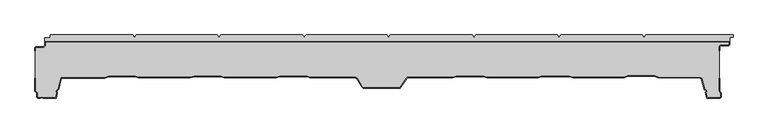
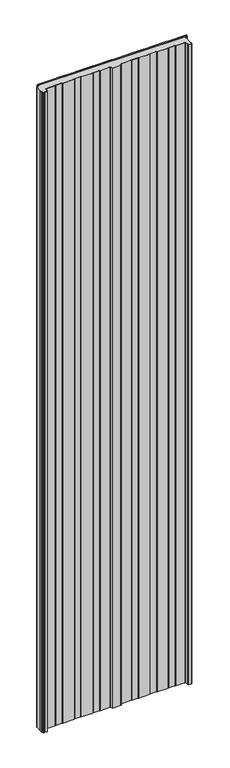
"""IFC4 building model written with IfcOpenShell, lengths in millimetres: plate geometry, Paneles-Sándwich-Madera_PAPUR-AC_Curtain-Panel : PAPUR AC 60/10."""

from ifc_helpers import new_model, si_unit, origin, origin_with_axes, place, context, project, spatial, polyline, outline, extrude, source, transform, mapped, element, save


def plate_5461fc3c(model_context):
    return source(origin(), model_context, "Body", "SweptSolid", [
        extrude(outline(polyline([(-404.8923076, 8.0070037), (-402.9037044, 10.0073737), (-272.8159298, 10.0073737), (-270.8198896, 8.0070037), (-270.8198896, 6.0196231), (-268.8151898, 6.0196231), (-268.8151898, 8.0070037), (-266.8234794, 10.0073737), (-136.0114048, 10.0073737), (-134.028354, 8.0070037), (-134.028354, 6.0196231), (-132.0236542, 6.0196231), (-132.0236542, 8.0070037), (-130.027614, 10.0073737), (-0.6790135, 10.0073737), (1.3083671, 8.0070037), (1.3083671, 6.0196231), (3.3044073, 6.0196231), (3.3044073, 8.0070037), (5.3047773, 10.0073737), (136.7230247, 10.0073737), (138.7147351, 8.0070037), (138.7147351, 6.0196231), (140.7107753, 6.0196231), (140.7107753, 8.0070037), (142.7111453, 10.0073737), (272.9386962, 10.0073737), (274.9390662, 8.0070037), (274.9390662, 6.0196231), (276.9351064, 6.0196231), (276.9351064, 8.0070037), (278.9311466, 10.0073737), (409.5094118, 10.0073737), (411.5097818, 8.0070037), (411.5097818, 6.0196231), (413.4971624, 6.0196231), (413.4971624, 8.0070037), (415.4932026, 10.0073737), (555.7269333, 10.0073737), (555.7269333, 6.4959017), (550.4015009, 6.4959017), (550.4015009, 0.0), (-549.601171, 0.0), (-549.601171, 5.5984381), (-541.266524, 5.5984381), (-541.266524, 10.0073737), (-408.8887178, 10.0073737), (-406.8926776, 8.0070037), (-406.8926776, 6.0196231), (-404.8923076, 6.0196231), (-404.8923076, 8.0070037)])), origin_with_axes(), (0.0, 0.0, 1.0), 5000.0),
        extrude(outline(polyline([(-565.6618356, -10.4348305), (-564.1420739, -9.1055803), (-552.1008857, -8.9930054), (-549.9316533, -7.001295), (-549.9922705, -1.1690474), (-548.9531173, 0.0), (548.9555868, 0.0), (549.99474, -0.6538006), (549.99474, -6.0184292), (548.4489996, -7.5641697), (535.77133, -7.5641697), (533.9181733, -9.3995927), (533.9181733, -15.1889566), (533.1181733, -15.1889566), (533.1181733, -9.0659666), (535.4422099, -6.7641697), (548.1176287, -6.7641697), (549.19474, -5.6870584), (549.19474, -0.8), (-548.5938644, -0.8), (-549.1891031, -1.4696435), (-549.1279914, -7.3494661), (-551.7861577, -9.7900979), (-563.8383716, -9.9027759), (-564.8585217, -10.795044), (-564.8185043, -15.1889566), (-565.6185375, -15.1889566), (-565.6618356, -10.4348305)])), origin_with_axes(), (0.0, 0.0, 1.0), 5000.0),
        extrude(outline(polyline([(160.2961713, -59.080732), (155.0700964, -56.8595419), (110.914743, -56.8595419), (105.4418692, -59.080732), (32.9522706, -59.080732), (31.4498282, -60.0159699), (22.1450768, -74.1874223), (21.0669553, -75.2871929), (-38.4029191, -75.7721311), (-40.2907141, -74.4602001), (-48.8593986, -60.2974073), (-51.5698567, -59.080732), (-124.2066687, -59.080732), (-128.6057508, -56.8595419), (-172.432039, -56.8595419), (-178.2426376, -59.080732), (-261.7689096, -59.080732), (-267.3283795, -56.8595419), (-309.6738743, -56.8595419), (-315.8568362, -59.080732), (-399.3138314, -59.080732), (-404.2931073, -56.8595419), (-447.2231259, -56.8595419), (-453.6788654, -59.5570106), (-522.9773976, -59.6955644), (-527.4977143, -77.4131272), (-528.6234636, -78.5994938), (-530.0999272, -79.3355607), (-530.4116732, -80.262139), (-529.4850948, -82.4227118), (-529.4850948, -83.6653659), (-531.6372836, -92.0045707), (-552.0433799, -92.0045707), (-554.8231149, -91.0779924), (-557.2997634, -92.0045707), (-560.7029903, -92.0045707), (-562.8635631, -90.4025428), (-562.9285102, -83.2756835), (-565.6476279, -80.6041937), (-565.6, -59.57), (-564.7999979, -59.57), (-564.8468678, -80.2694216), (-562.1315619, -82.9371664), (-562.0672248, -89.9970874), (-560.438754, -91.2045707), (-557.4445144, -91.2045707), (-554.8384953, -90.2295916), (-551.9135578, -91.2045707), (-532.2570317, -91.2045707), (-530.2850948, -83.5637976), (-530.2850948, -82.5870188), (-531.2673442, -80.2966335), (-530.7527365, -78.767105), (-529.1066634, -77.946482), (-528.2213945, -77.0135448), (-523.5992353, -58.896806), (-453.8400488, -58.7573313), (-447.3835418, -56.0595419), (-404.1227627, -56.0595419), (-399.1434867, -58.280732), (-315.9961744, -58.280732), (-309.8132126, -56.0595419), (-267.1744807, -56.0595419), (-261.6150108, -58.280732), (-178.390332, -58.280732), (-172.5797335, -56.0595419), (-128.4152363, -56.0595419), (-124.0161542, -58.280732), (-51.3985382, -58.280732), (-48.3041085, -59.6697651), (-39.6943674, -73.9004185), (-38.1551784, -74.9700843), (20.728235, -74.4899283), (21.5191698, -73.6831114), (30.8776723, -59.4297941), (32.7236193, -58.280732), (105.2857129, -58.280732), (110.7585866, -56.0595419), (155.2330509, -56.0595419), (160.4591258, -58.280732), (242.801635, -58.280732), (247.2274638, -56.0595419), (292.6117194, -56.0595419), (298.2231469, -58.280732), (380.6626325, -58.280732), (386.4515821, -55.3754327), (429.5764659, -55.3754327), (435.4444395, -58.2812706), (503.1429943, -58.4760679), (505.4861808, -59.5321519), (510.3641127, -77.2870941), (512.9960103, -78.5999754), (513.122536, -80.5751818), (511.934239, -82.1278347), (514.154453, -90.732622), (534.8688225, -90.732622), (536.1415957, -89.4787983), (536.1415957, -83.5331272), (533.1367108, -80.7549039), (533.1367108, -59.57), (533.9367108, -59.57), (533.9367108, -80.4050226), (536.9415957, -83.1832459), (536.9415957, -89.8136893), (535.1966842, -91.532622), (513.5346688, -91.532622), (511.06235, -81.9507631), (512.3050041, -80.3270861), (512.2270676, -79.1104109), (509.6873364, -77.8435053), (504.8144411, -60.1068958), (502.9699441, -59.2755732), (435.2561206, -59.080732), (429.3892345, -56.1754327), (386.6410678, -56.1754327), (380.8521183, -59.080732), (298.0705727, -59.080732), (292.4591451, -56.8595419), (247.4169495, -56.8595419), (242.9911208, -59.080732), (160.2961713, -59.080732)])), origin_with_axes(), (0.0, 0.0, 1.0), 5000.0),
        extrude(outline(polyline([(536.139617, -83.5285564), (536.139617, -89.4742276), (534.8668439, -90.7280512), (514.1524744, -90.7280512), (511.9322604, -82.1232639), (513.1205574, -80.5706111), (512.9940317, -78.5954047), (510.3621341, -77.2825234), (505.4842022, -59.5275812), (503.1410157, -58.4714971), (435.4424609, -58.2766998), (429.5744873, -55.370862), (386.4496035, -55.370862), (380.6606539, -58.2761613), (298.2211683, -58.2761613), (292.6097408, -56.0549712), (247.2254852, -56.0549712), (242.7996564, -58.2761613), (160.4571472, -58.2761613), (155.2310723, -56.0549712), (110.756608, -56.0549712), (105.2837343, -58.2761613), (32.7216407, -58.2761613), (30.8756937, -59.4252234), (21.5171912, -73.6785406), (20.7262564, -74.4853576), (-38.157157, -74.9655136), (-39.696346, -73.8958478), (-48.3060871, -59.6651944), (-51.4005168, -58.2761613), (-124.0181328, -58.2761613), (-128.4172149, -56.0549712), (-172.5817121, -56.0549712), (-178.3923106, -58.2761613), (-261.6169894, -58.2761613), (-267.1764593, -56.0549712), (-309.8151912, -56.0549712), (-315.998153, -58.2761613), (-399.1454653, -58.2761613), (-404.1247413, -56.0549712), (-447.3855204, -56.0549712), (-453.8420274, -58.7527605), (-523.6012139, -58.8922353), (-528.2233731, -77.0089741), (-529.108642, -77.9419113), (-530.7547151, -78.7625342), (-531.2693228, -80.2920628), (-530.2870734, -82.5824481), (-530.2870734, -83.5592269), (-532.2590104, -91.2), (-551.9155364, -91.2), (-554.8404739, -90.2250208), (-557.446493, -91.2), (-560.4407326, -91.2), (-562.0692034, -89.9925166), (-562.1335405, -82.9325956), (-564.8488464, -80.2648508), (-564.8019766, -60.0), (-564.8432618, -10.795044), (-563.8231116, -9.9027759), (-551.7708977, -9.7900979), (-549.1127314, -7.3494661), (-549.1738431, -1.4696435), (-548.5786045, -0.8), (549.21, -0.8), (549.21, -5.6870584), (548.1328887, -6.7641697), (535.4574698, -6.7641697), (533.1334333, -9.0659666), (533.1334333, -80.7491322), (536.139617, -83.5285564)])), origin_with_axes(), (0.0, 0.0, 1.0), 5000.0),
    ])


if __name__ == "__main__":
    model = new_model("IFC4")
    model_context = context("Model", 3, world=origin())
    ifc_project = project(units=[si_unit("LENGTHUNIT", "METRE", prefix="MILLI")], contexts=[model_context])
    site = spatial("IfcSite", under=ifc_project)
    building = spatial("IfcBuilding", under=site)
    placement = place(None, origin())
    plate_shape = plate_5461fc3c(model_context)
    element("IfcPlate", 1, ObjectType="Paneles-Sándwich-Madera_PAPUR-AC_Curtain-Panel : PAPUR AC 60/10", at=placement, inside=building, context=model_context, shape_type="MappedRepresentation", body=[
        mapped(plate_shape, transform((0.0, 0.0, 0.0), x_axis=(1.0, 0.0, 0.0), y_axis=(0.0, 1.0, 0.0), z_axis=(0.0, 0.0, 1.0))),
    ])
    save(model, "model.ifc")
